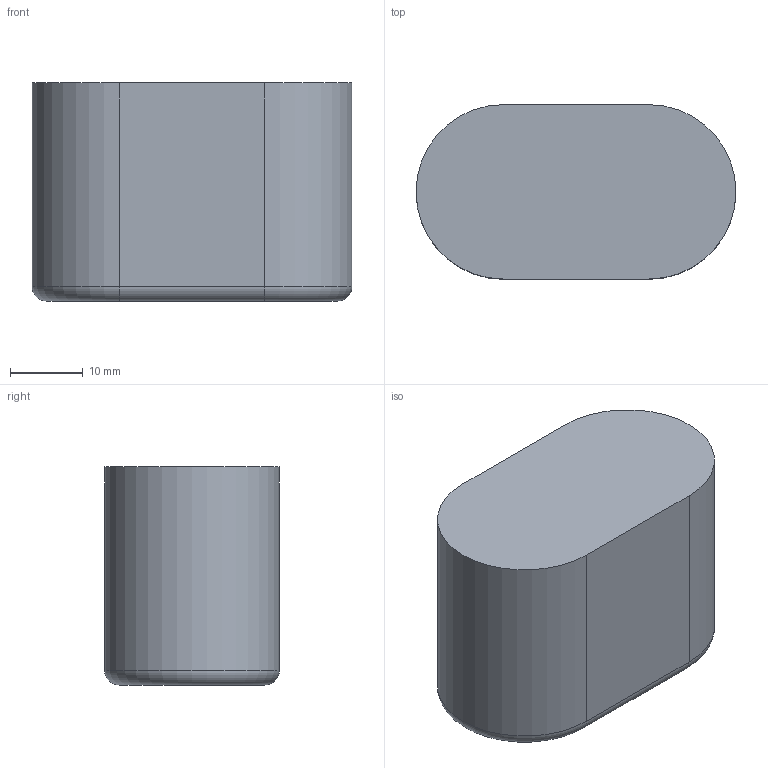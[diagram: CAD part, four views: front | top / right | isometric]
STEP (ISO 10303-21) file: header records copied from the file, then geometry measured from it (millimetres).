
FILE_DESCRIPTION(/* description */ (''),/* implementation_level */ '2;1');
FILE_NAME(/* name */ 'Z:\Flow\Inventor\Minireaktor 2 Anschlüsse.stp',/* time_stamp */ '2018-09-10T16:42:02+02:00',/* author */ ('JN'),/* organization */ (''),/* preprocessor_version */ 'ST-DEVELOPER v16.13',/* originating_system */ 'Autodesk Inventor 2018',/* authorisation */ '');
FILE_SCHEMA (('AUTOMOTIVE_DESIGN { 1 0 10303 214 3 1 1 }'));
Length unit declared in the file: millimetre
Products named in the file (1): Minireaktor 3 Anschlüsse
Bounding box: 44 x 24 x 30 mm (x, y, z)
Volume: 22926 mm3; surface area: 7606.9 mm2
Topology: 1 solids, 1 shells, 55 faces, 128 edges, 84 vertices
Faces by surface type: plane 37, cylinder 13, torus 5
Full cylindrical faces by diameter (mm): 2 x4, 6.4 x4, 15 x1
Entity records: 1534 total; most frequent: CARTESIAN_POINT 307, DIRECTION 245, ORIENTED_EDGE 216, EDGE_CURVE 108, AXIS2_PLACEMENT_3D 83, LINE 79, VECTOR 79, EDGE_LOOP 79
